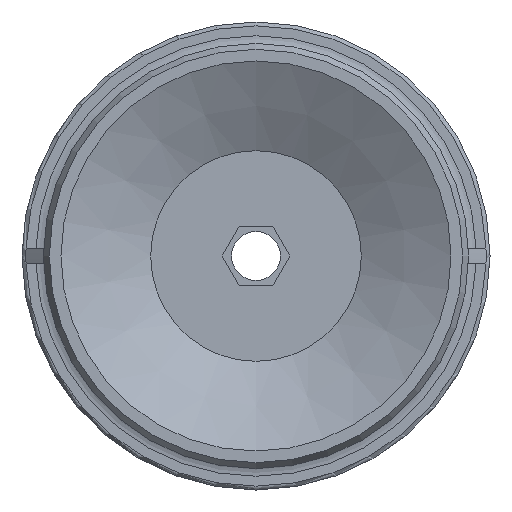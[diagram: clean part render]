
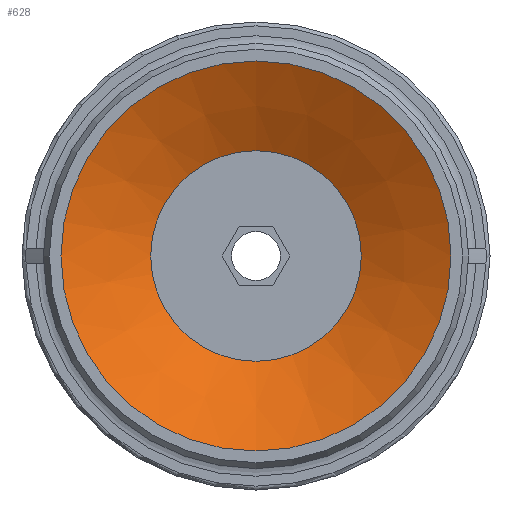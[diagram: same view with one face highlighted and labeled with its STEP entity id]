
A CAD part, front view. The second image highlights one B-rep face of the part: STEP entity #628.
In plain terms, the highlighted conical face has half-angle 61.631 degrees and reference radius 5.4 mm.
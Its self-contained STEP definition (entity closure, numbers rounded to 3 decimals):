
#628=ADVANCED_FACE('',(#962,#963),#964,.F.);
#962=FACE_BOUND('',#1371,.T.);
#963=FACE_OUTER_BOUND('',#1372,.T.);
#964=CONICAL_SURFACE('',#1373,5.4,1.076);
#1371=EDGE_LOOP('',(#2478));
#1372=EDGE_LOOP('',(#2479));
#1373=AXIS2_PLACEMENT_3D('',#2480,#2481,#2482);
#2478=ORIENTED_EDGE('',*,*,#2981,.F.);
#2479=ORIENTED_EDGE('',*,*,#3002,.T.);
#2480=CARTESIAN_POINT('',(0.0,2.484,0.0));
#2481=DIRECTION('',(-0.0,-1.0,0.));
#2482=DIRECTION('',(0.0,0.,-1.0));
#2981=EDGE_CURVE('',#3411,#3411,#3412,.T.);
#3002=EDGE_CURVE('',#3445,#3445,#3446,.T.);
#3411=VERTEX_POINT('',#4313);
#3412=CIRCLE('',#4314,5.4);
#3445=VERTEX_POINT('',#4351);
#3446=CIRCLE('',#4352,10.0);
#4313=CARTESIAN_POINT('',(0.0,2.484,-5.4));
#4314=AXIS2_PLACEMENT_3D('',#5116,#5117,#5118);
#4351=CARTESIAN_POINT('',(0.0,0.,-10.0));
#4352=AXIS2_PLACEMENT_3D('',#5171,#5172,#5173);
#5116=CARTESIAN_POINT('',(0.0,2.484,0.0));
#5117=DIRECTION('',(0.0,-1.0,0.));
#5118=DIRECTION('',(0.0,0.,-1.0));
#5171=CARTESIAN_POINT('',(0.0,0.0,0.0));
#5172=DIRECTION('',(0.0,-1.0,0.));
#5173=DIRECTION('',(0.0,0.,-1.0));
